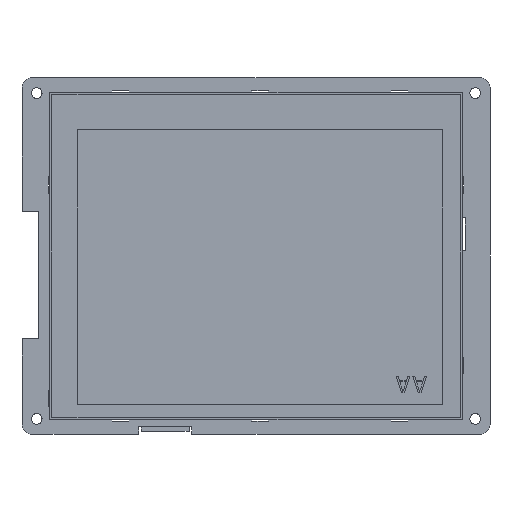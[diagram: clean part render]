
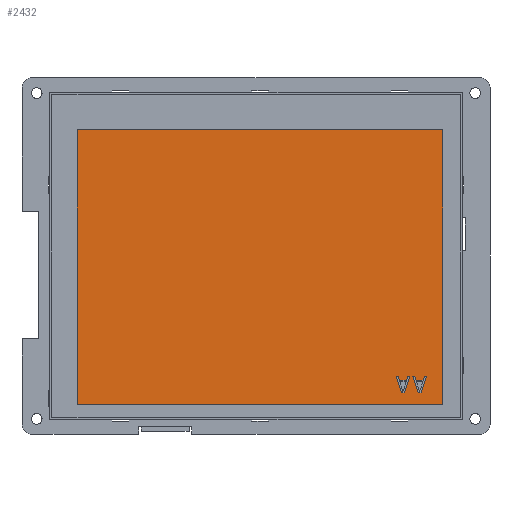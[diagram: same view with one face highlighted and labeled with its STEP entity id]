
A CAD part, front view. The second image highlights one B-rep face of the part: STEP entity #2432.
In plain terms, the highlighted planar face has unit normal (0, -1, 0) as drawn and (0, 1, 0) by its records, which use the part's own axes.
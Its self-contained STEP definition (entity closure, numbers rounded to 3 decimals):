
#1859=DIRECTION('',(0.,0.,1.));
#1860=VECTOR('',#1859,85.);
#1861=CARTESIAN_POINT('',(-57.7,1.45,-45.95));
#1862=LINE('',#1861,#1860);
#1863=DIRECTION('',(-1.,0.,0.));
#1864=VECTOR('',#1863,113.);
#1865=CARTESIAN_POINT('',(55.3,1.45,-45.95));
#1866=LINE('',#1865,#1864);
#1867=DIRECTION('',(0.,0.,-1.));
#1868=VECTOR('',#1867,85.);
#1869=CARTESIAN_POINT('',(55.3,1.45,39.05));
#1870=LINE('',#1869,#1868);
#1871=DIRECTION('',(1.,0.,0.));
#1872=VECTOR('',#1871,113.);
#1873=CARTESIAN_POINT('',(-57.7,1.45,39.05));
#1874=LINE('',#1873,#1872);
#1875=DIRECTION('',(0.316,0.,0.949));
#1876=VECTOR('',#1875,5.429);
#1877=CARTESIAN_POINT('',(-50.113,1.45,-42.304));
#1878=LINE('',#1877,#1876);
#1879=DIRECTION('',(1.,0.,0.));
#1880=VECTOR('',#1879,0.858);
#1881=CARTESIAN_POINT('',(-50.971,1.45,-42.304));
#1882=LINE('',#1881,#1880);
#1883=DIRECTION('',(0.316,0.,-0.949));
#1884=VECTOR('',#1883,5.429);
#1885=CARTESIAN_POINT('',(-52.688,1.45,-37.154));
#1886=LINE('',#1885,#1884);
#1887=DIRECTION('',(-1.,0.,0.));
#1888=VECTOR('',#1887,0.644);
#1889=CARTESIAN_POINT('',(-52.044,1.45,-37.154));
#1890=LINE('',#1889,#1888);
#1891=DIRECTION('',(-0.31,0.,0.951));
#1892=VECTOR('',#1891,1.383);
#1893=CARTESIAN_POINT('',(-51.615,1.45,-38.469));
#1894=LINE('',#1893,#1892);
#1895=DIRECTION('',(-1.,0.,0.));
#1896=VECTOR('',#1895,2.146);
#1897=CARTESIAN_POINT('',(-49.469,1.45,-38.469));
#1898=LINE('',#1897,#1896);
#1899=DIRECTION('',(-0.31,0.,-0.951));
#1900=VECTOR('',#1899,1.383);
#1901=CARTESIAN_POINT('',(-49.04,1.45,-37.154));
#1902=LINE('',#1901,#1900);
#1903=DIRECTION('',(-1.,0.,0.));
#1904=VECTOR('',#1903,0.644);
#1905=CARTESIAN_POINT('',(-48.396,1.45,-37.154));
#1906=LINE('',#1905,#1904);
#1919=DIRECTION('',(0.316,0.,0.949));
#1920=VECTOR('',#1919,5.429);
#1921=CARTESIAN_POINT('',(-44.963,1.45,-42.304));
#1922=LINE('',#1921,#1920);
#1923=DIRECTION('',(1.,0.,0.));
#1924=VECTOR('',#1923,0.858);
#1925=CARTESIAN_POINT('',(-45.821,1.45,-42.304));
#1926=LINE('',#1925,#1924);
#1927=DIRECTION('',(0.316,0.,-0.949));
#1928=VECTOR('',#1927,5.429);
#1929=CARTESIAN_POINT('',(-47.538,1.45,-37.154));
#1930=LINE('',#1929,#1928);
#1931=DIRECTION('',(-1.,0.,0.));
#1932=VECTOR('',#1931,0.644);
#1933=CARTESIAN_POINT('',(-46.894,1.45,-37.154));
#1934=LINE('',#1933,#1932);
#1935=DIRECTION('',(-0.31,0.,0.951));
#1936=VECTOR('',#1935,1.383);
#1937=CARTESIAN_POINT('',(-46.465,1.45,-38.469));
#1938=LINE('',#1937,#1936);
#1939=DIRECTION('',(-1.,0.,0.));
#1940=VECTOR('',#1939,2.146);
#1941=CARTESIAN_POINT('',(-44.319,1.45,-38.469));
#1942=LINE('',#1941,#1940);
#1943=DIRECTION('',(-0.31,0.,-0.951));
#1944=VECTOR('',#1943,1.383);
#1945=CARTESIAN_POINT('',(-43.89,1.45,-37.154));
#1946=LINE('',#1945,#1944);
#1947=DIRECTION('',(-1.,0.,0.));
#1948=VECTOR('',#1947,0.644);
#1949=CARTESIAN_POINT('',(-43.246,1.45,-37.154));
#1950=LINE('',#1949,#1948);
#2067=CARTESIAN_POINT('',(-57.7,1.45,-45.95));
#2068=CARTESIAN_POINT('',(-57.7,1.45,39.05));
#2069=VERTEX_POINT('',#2067);
#2070=VERTEX_POINT('',#2068);
#2071=CARTESIAN_POINT('',(55.3,1.45,39.05));
#2072=VERTEX_POINT('',#2071);
#2073=CARTESIAN_POINT('',(55.3,1.45,-45.95));
#2074=VERTEX_POINT('',#2073);
#2075=CARTESIAN_POINT('',(-50.113,1.45,-42.304));
#2076=CARTESIAN_POINT('',(-48.396,1.45,-37.154));
#2077=VERTEX_POINT('',#2075);
#2078=VERTEX_POINT('',#2076);
#2079=CARTESIAN_POINT('',(-49.04,1.45,-37.154));
#2080=VERTEX_POINT('',#2079);
#2081=CARTESIAN_POINT('',(-49.469,1.45,-38.469));
#2082=VERTEX_POINT('',#2081);
#2083=CARTESIAN_POINT('',(-51.615,1.45,-38.469));
#2084=VERTEX_POINT('',#2083);
#2085=CARTESIAN_POINT('',(-52.044,1.45,-37.154));
#2086=VERTEX_POINT('',#2085);
#2087=CARTESIAN_POINT('',(-52.688,1.45,-37.154));
#2088=VERTEX_POINT('',#2087);
#2089=CARTESIAN_POINT('',(-50.971,1.45,-42.304));
#2090=VERTEX_POINT('',#2089);
#2097=CARTESIAN_POINT('',(-44.963,1.45,-42.304));
#2098=CARTESIAN_POINT('',(-43.246,1.45,-37.154));
#2099=VERTEX_POINT('',#2097);
#2100=VERTEX_POINT('',#2098);
#2101=CARTESIAN_POINT('',(-43.89,1.45,-37.154));
#2102=VERTEX_POINT('',#2101);
#2103=CARTESIAN_POINT('',(-44.319,1.45,-38.469));
#2104=VERTEX_POINT('',#2103);
#2105=CARTESIAN_POINT('',(-46.465,1.45,-38.469));
#2106=VERTEX_POINT('',#2105);
#2107=CARTESIAN_POINT('',(-46.894,1.45,-37.154));
#2108=VERTEX_POINT('',#2107);
#2109=CARTESIAN_POINT('',(-47.538,1.45,-37.154));
#2110=VERTEX_POINT('',#2109);
#2111=CARTESIAN_POINT('',(-45.821,1.45,-42.304));
#2112=VERTEX_POINT('',#2111);
#2385=CARTESIAN_POINT('',(0.,1.45,0.));
#2386=DIRECTION('',(0.,1.,0.));
#2387=DIRECTION('',(1.,0.,0.));
#2388=AXIS2_PLACEMENT_3D('',#2385,#2386,#2387);
#2389=PLANE('',#2388);
#2390=ORIENTED_EDGE('',*,*,#2337,.F.);
#2391=ORIENTED_EDGE('',*,*,#2352,.F.);
#2392=ORIENTED_EDGE('',*,*,#2366,.F.);
#2393=ORIENTED_EDGE('',*,*,#2379,.F.);
#2394=EDGE_LOOP('',(#2390,#2391,#2392,#2393));
#2395=FACE_OUTER_BOUND('',#2394,.F.);
#2397=ORIENTED_EDGE('',*,*,#2396,.F.);
#2399=ORIENTED_EDGE('',*,*,#2398,.F.);
#2401=ORIENTED_EDGE('',*,*,#2400,.F.);
#2403=ORIENTED_EDGE('',*,*,#2402,.F.);
#2405=ORIENTED_EDGE('',*,*,#2404,.F.);
#2407=ORIENTED_EDGE('',*,*,#2406,.F.);
#2409=ORIENTED_EDGE('',*,*,#2408,.F.);
#2411=ORIENTED_EDGE('',*,*,#2410,.F.);
#2412=EDGE_LOOP('',(#2397,#2399,#2401,#2403,#2405,#2407,#2409,#2411));
#2413=FACE_BOUND('',#2412,.F.);
#2415=ORIENTED_EDGE('',*,*,#2414,.F.);
#2417=ORIENTED_EDGE('',*,*,#2416,.F.);
#2419=ORIENTED_EDGE('',*,*,#2418,.F.);
#2421=ORIENTED_EDGE('',*,*,#2420,.F.);
#2423=ORIENTED_EDGE('',*,*,#2422,.F.);
#2425=ORIENTED_EDGE('',*,*,#2424,.F.);
#2427=ORIENTED_EDGE('',*,*,#2426,.F.);
#2429=ORIENTED_EDGE('',*,*,#2428,.F.);
#2430=EDGE_LOOP('',(#2415,#2417,#2419,#2421,#2423,#2425,#2427,#2429));
#2431=FACE_BOUND('',#2430,.F.);
#2337=EDGE_CURVE('',#2069,#2070,#1862,.T.);
#2352=EDGE_CURVE('',#2074,#2069,#1866,.T.);
#2366=EDGE_CURVE('',#2072,#2074,#1870,.T.);
#2379=EDGE_CURVE('',#2070,#2072,#1874,.T.);
#2396=EDGE_CURVE('',#2077,#2078,#1878,.T.);
#2398=EDGE_CURVE('',#2090,#2077,#1882,.T.);
#2400=EDGE_CURVE('',#2088,#2090,#1886,.T.);
#2402=EDGE_CURVE('',#2086,#2088,#1890,.T.);
#2404=EDGE_CURVE('',#2084,#2086,#1894,.T.);
#2406=EDGE_CURVE('',#2082,#2084,#1898,.T.);
#2408=EDGE_CURVE('',#2080,#2082,#1902,.T.);
#2410=EDGE_CURVE('',#2078,#2080,#1906,.T.);
#2414=EDGE_CURVE('',#2099,#2100,#1922,.T.);
#2416=EDGE_CURVE('',#2112,#2099,#1926,.T.);
#2418=EDGE_CURVE('',#2110,#2112,#1930,.T.);
#2420=EDGE_CURVE('',#2108,#2110,#1934,.T.);
#2422=EDGE_CURVE('',#2106,#2108,#1938,.T.);
#2424=EDGE_CURVE('',#2104,#2106,#1942,.T.);
#2426=EDGE_CURVE('',#2102,#2104,#1946,.T.);
#2428=EDGE_CURVE('',#2100,#2102,#1950,.T.);
#2432=ADVANCED_FACE('',(#2395,#2413,#2431),#2389,.T.);
